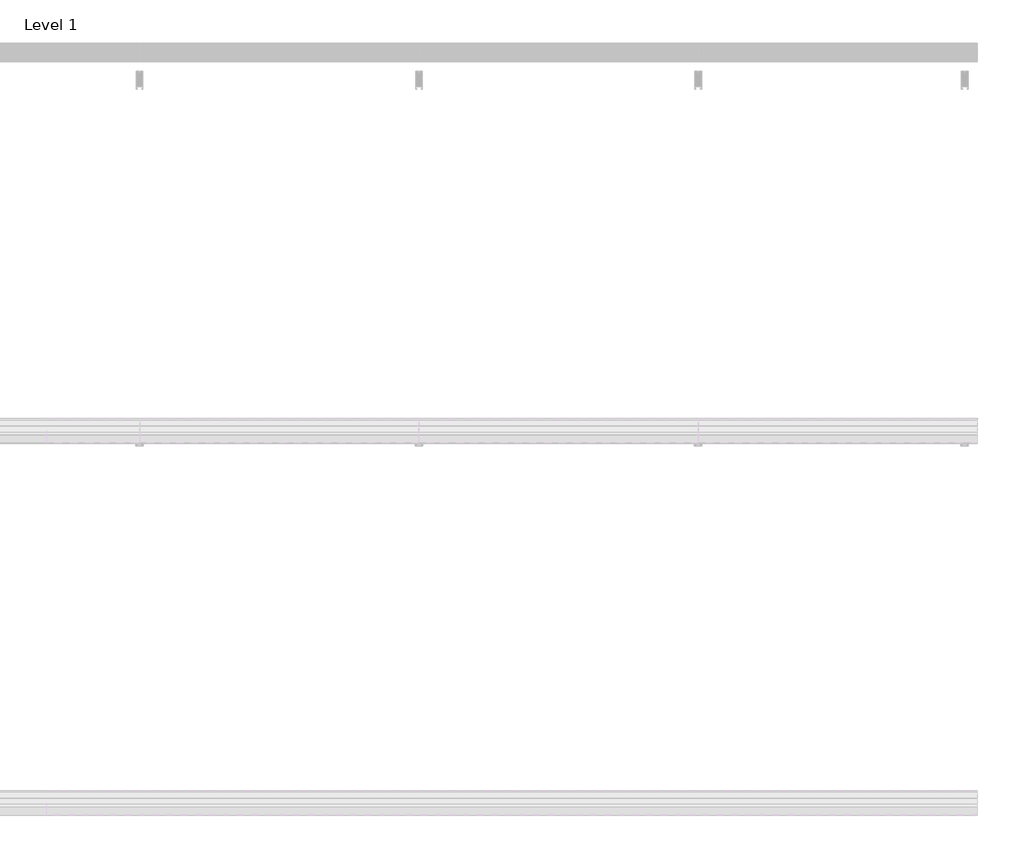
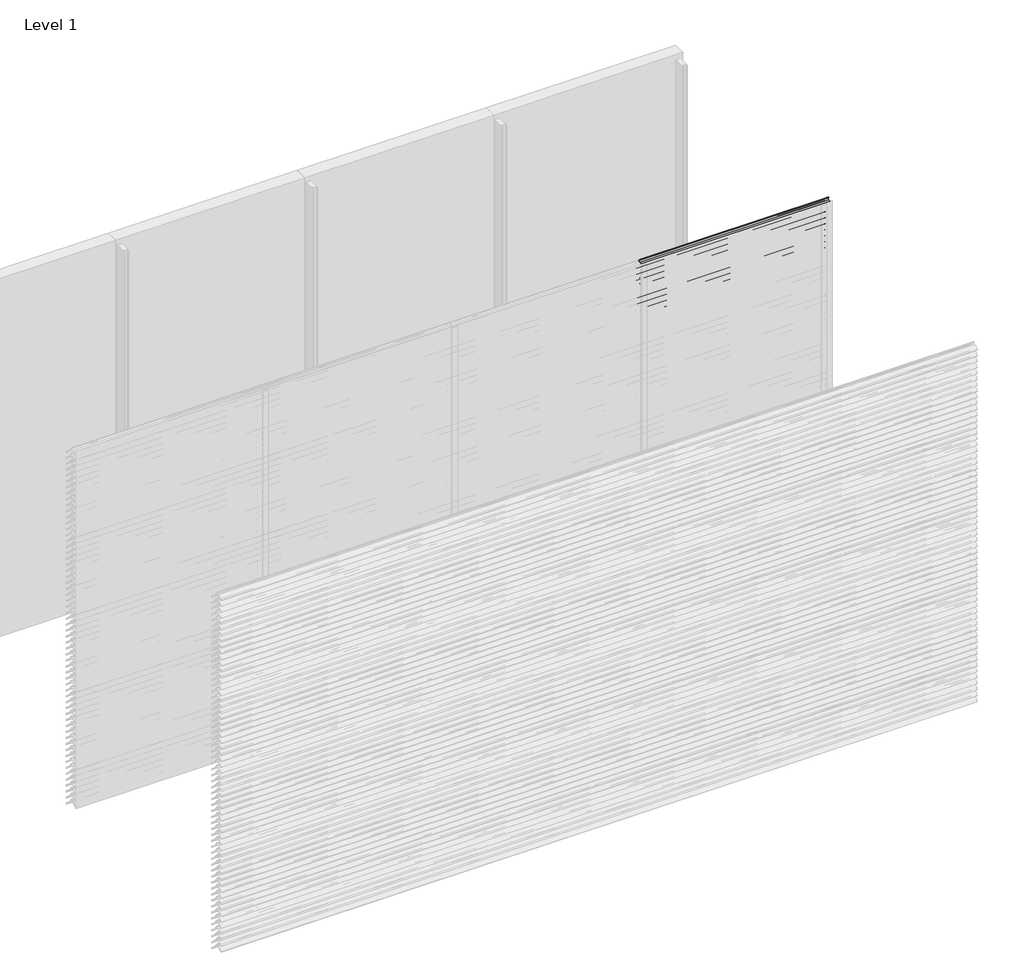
# One storey, part 102 of 173: 18 proxies.
"""IFC4 building model written with IfcOpenShell, lengths in millimetres."""

from ifc_helpers import new_model, si_unit, point, frame, frame_2d, origin, place, context, project, spatial, polyline, circle_curve, trimmed, segment, composite_curve, outline, extrude, element, save

model = new_model("IFC4")

# Units and contexts
model_context = context("Model", 3, world=origin())
ifc_project = project(units=[si_unit("LENGTHUNIT", "METRE", prefix="MILLI")], contexts=[model_context])

# Site, building, storey
site = spatial("IfcSite", under=ifc_project)
building = spatial("IfcBuilding", under=site)
storey = spatial("IfcBuildingStorey", under=building, Name="Level 1", Elevation=0.0)

# Proxies
placement = place(None, origin())
element("IfcBuildingElementProxy", 1, Name="Wall Sweeps", at=placement, inside=storey, context=model_context, shape_type="SweptSolid", body=[
    extrude(outline(composite_curve([segment(polyline([(-23998.0, 359.1474905), (-23998.0, 361.6227417)]), True, "CONTINUOUS"), segment(trimmed(circle_curve(frame_2d((-23951.2682172, 316.2200208)), 65.1557103), [point((-23998.0, 361.6227417))], [point((-23954.4014323, 381.3003524))], False, "CARTESIAN"), True, "CONTINUOUS"), segment(polyline([(-23954.4014323, 381.3003524), (-23934.8315836, 381.3003524)]), True, "CONTINUOUS"), segment(trimmed(circle_curve(frame_2d((-23732.7329489, 528.5533172)), 250.0545817), [point((-23934.8315836, 381.3003524))], [point((-23941.4452143, 390.8344583))], False, "CARTESIAN"), True, "CONTINUOUS"), segment(trimmed(circle_curve(frame_2d((-23953.2981792, 385.1737835)), 13.1352966), [point((-23941.4452143, 390.8344583))], [point((-23953.8171475, 398.298824))], True, "CARTESIAN"), True, "CONTINUOUS"), segment(polyline([(-23953.8171475, 398.298824), (-23953.8171475, 400.0)]), True, "CONTINUOUS"), segment(trimmed(circle_curve(frame_2d((-23953.2981792, 385.1737835)), 14.8352966), [point((-23953.8171475, 400.0))], [point((-23939.9637661, 391.6760487))], False, "CARTESIAN"), True, "CONTINUOUS"), segment(trimmed(circle_curve(frame_2d((-23732.7329489, 528.5533172)), 248.3545817), [point((-23939.9637661, 391.6760487))], [point((-23873.8787895, 324.2059416))], True, "CARTESIAN"), True, "CONTINUOUS"), segment(trimmed(circle_curve(frame_2d((-23883.8147537, 311.6649442)), 16.0), [point((-23873.8787895, 324.2059416))], [point((-23867.8648347, 310.4))], False, "CARTESIAN"), True, "CONTINUOUS"), segment(polyline([(-23867.8648347, 310.4), (-23869.6712069, 310.4)]), True, "CONTINUOUS"), segment(trimmed(circle_curve(frame_2d((-23883.8147537, 311.6649442)), 14.2), [point((-23869.6712069, 310.4))], [point((-23874.9518628, 322.7594998))], True, "CARTESIAN"), True, "CONTINUOUS"), segment(trimmed(circle_curve(frame_2d((-23732.7329489, 528.5533172)), 250.1545817), [point((-23874.9518628, 322.7594998))], [point((-23933.7064024, 379.6003524))], False, "CARTESIAN"), True, "CONTINUOUS"), segment(polyline([(-23933.7064024, 379.6003524), (-23954.3602632, 379.6003524)]), True, "CONTINUOUS"), segment(trimmed(circle_curve(frame_2d((-23951.2682172, 316.2200208)), 63.4557103), [point((-23954.3602632, 379.6003524))], [point((-23998.0, 359.1474905))], True, "CARTESIAN"), True, "CONTINUOUS")], self_intersect=False)), frame((3000.0, 0.0, 0.0), z_axis=(1.0, 0.0, 0.0), x_axis=(0.0, 1.0, 0.0)), (0.0, 0.0, 1.0), 1500.0),
])
element("IfcBuildingElementProxy", 2, Name="Wall Sweeps", at=placement, inside=storey, context=model_context, shape_type="SweptSolid", body=[
    extrude(outline(composite_curve([segment(polyline([(-23998.0, 309.1474905), (-23998.0, 311.6227417)]), True, "CONTINUOUS"), segment(trimmed(circle_curve(frame_2d((-23951.2682172, 266.2200208)), 65.1557103), [point((-23998.0, 311.6227417))], [point((-23954.4014323, 331.3003524))], False, "CARTESIAN"), True, "CONTINUOUS"), segment(polyline([(-23954.4014323, 331.3003524), (-23934.8315836, 331.3003524)]), True, "CONTINUOUS"), segment(trimmed(circle_curve(frame_2d((-23732.7329489, 478.5533172)), 250.0545817), [point((-23934.8315836, 331.3003524))], [point((-23941.4452143, 340.8344583))], False, "CARTESIAN"), True, "CONTINUOUS"), segment(trimmed(circle_curve(frame_2d((-23953.2981792, 335.1737835)), 13.1352966), [point((-23941.4452143, 340.8344583))], [point((-23953.8171475, 348.298824))], True, "CARTESIAN"), True, "CONTINUOUS"), segment(polyline([(-23953.8171475, 348.298824), (-23953.8171475, 350.0)]), True, "CONTINUOUS"), segment(trimmed(circle_curve(frame_2d((-23953.2981792, 335.1737835)), 14.8352966), [point((-23953.8171475, 350.0))], [point((-23939.9637661, 341.6760487))], False, "CARTESIAN"), True, "CONTINUOUS"), segment(trimmed(circle_curve(frame_2d((-23732.7329489, 478.5533172)), 248.3545817), [point((-23939.9637661, 341.6760487))], [point((-23873.8787895, 274.2059416))], True, "CARTESIAN"), True, "CONTINUOUS"), segment(trimmed(circle_curve(frame_2d((-23883.8147537, 261.6649442)), 16.0), [point((-23873.8787895, 274.2059416))], [point((-23867.8648347, 260.4))], False, "CARTESIAN"), True, "CONTINUOUS"), segment(polyline([(-23867.8648347, 260.4), (-23869.6712069, 260.4)]), True, "CONTINUOUS"), segment(trimmed(circle_curve(frame_2d((-23883.8147537, 261.6649442)), 14.2), [point((-23869.6712069, 260.4))], [point((-23874.9518628, 272.7594998))], True, "CARTESIAN"), True, "CONTINUOUS"), segment(trimmed(circle_curve(frame_2d((-23732.7329489, 478.5533172)), 250.1545817), [point((-23874.9518628, 272.7594998))], [point((-23933.7064024, 329.6003524))], False, "CARTESIAN"), True, "CONTINUOUS"), segment(polyline([(-23933.7064024, 329.6003524), (-23954.3602632, 329.6003524)]), True, "CONTINUOUS"), segment(trimmed(circle_curve(frame_2d((-23951.2682172, 266.2200208)), 63.4557103), [point((-23954.3602632, 329.6003524))], [point((-23998.0, 309.1474905))], True, "CARTESIAN"), True, "CONTINUOUS")], self_intersect=False)), frame((3000.0, 0.0, 0.0), z_axis=(1.0, 0.0, 0.0), x_axis=(0.0, 1.0, 0.0)), (0.0, 0.0, 1.0), 1500.0),
])
element("IfcBuildingElementProxy", 3, Name="Wall Sweeps", at=placement, inside=storey, context=model_context, shape_type="SweptSolid", body=[
    extrude(outline(composite_curve([segment(polyline([(-23998.0, 259.1474905), (-23998.0, 261.6227417)]), True, "CONTINUOUS"), segment(trimmed(circle_curve(frame_2d((-23951.2682172, 216.2200208)), 65.1557103), [point((-23998.0, 261.6227417))], [point((-23954.4014323, 281.3003524))], False, "CARTESIAN"), True, "CONTINUOUS"), segment(polyline([(-23954.4014323, 281.3003524), (-23934.8315836, 281.3003524)]), True, "CONTINUOUS"), segment(trimmed(circle_curve(frame_2d((-23732.7329489, 428.5533172)), 250.0545817), [point((-23934.8315836, 281.3003524))], [point((-23941.4452143, 290.8344583))], False, "CARTESIAN"), True, "CONTINUOUS"), segment(trimmed(circle_curve(frame_2d((-23953.2981792, 285.1737835)), 13.1352966), [point((-23941.4452143, 290.8344583))], [point((-23953.8171475, 298.298824))], True, "CARTESIAN"), True, "CONTINUOUS"), segment(polyline([(-23953.8171475, 298.298824), (-23953.8171475, 300.0)]), True, "CONTINUOUS"), segment(trimmed(circle_curve(frame_2d((-23953.2981792, 285.1737835)), 14.8352966), [point((-23953.8171475, 300.0))], [point((-23939.9637661, 291.6760487))], False, "CARTESIAN"), True, "CONTINUOUS"), segment(trimmed(circle_curve(frame_2d((-23732.7329489, 428.5533172)), 248.3545817), [point((-23939.9637661, 291.6760487))], [point((-23873.8787895, 224.2059416))], True, "CARTESIAN"), True, "CONTINUOUS"), segment(trimmed(circle_curve(frame_2d((-23883.8147537, 211.6649442)), 16.0), [point((-23873.8787895, 224.2059416))], [point((-23867.8648347, 210.4))], False, "CARTESIAN"), True, "CONTINUOUS"), segment(polyline([(-23867.8648347, 210.4), (-23869.6712069, 210.4)]), True, "CONTINUOUS"), segment(trimmed(circle_curve(frame_2d((-23883.8147537, 211.6649442)), 14.2), [point((-23869.6712069, 210.4))], [point((-23874.9518628, 222.7594998))], True, "CARTESIAN"), True, "CONTINUOUS"), segment(trimmed(circle_curve(frame_2d((-23732.7329489, 428.5533172)), 250.1545817), [point((-23874.9518628, 222.7594998))], [point((-23933.7064024, 279.6003524))], False, "CARTESIAN"), True, "CONTINUOUS"), segment(polyline([(-23933.7064024, 279.6003524), (-23954.3602632, 279.6003524)]), True, "CONTINUOUS"), segment(trimmed(circle_curve(frame_2d((-23951.2682172, 216.2200208)), 63.4557103), [point((-23954.3602632, 279.6003524))], [point((-23998.0, 259.1474905))], True, "CARTESIAN"), True, "CONTINUOUS")], self_intersect=False)), frame((3000.0, 0.0, 0.0), z_axis=(1.0, 0.0, 0.0), x_axis=(0.0, 1.0, 0.0)), (0.0, 0.0, 1.0), 1500.0),
])
element("IfcBuildingElementProxy", 4, Name="Wall Sweeps", at=placement, inside=storey, context=model_context, shape_type="SweptSolid", body=[
    extrude(outline(composite_curve([segment(polyline([(-23998.0, 209.1474905), (-23998.0, 211.6227417)]), True, "CONTINUOUS"), segment(trimmed(circle_curve(frame_2d((-23951.2682172, 166.2200208)), 65.1557103), [point((-23998.0, 211.6227417))], [point((-23954.4014323, 231.3003524))], False, "CARTESIAN"), True, "CONTINUOUS"), segment(polyline([(-23954.4014323, 231.3003524), (-23934.8315836, 231.3003524)]), True, "CONTINUOUS"), segment(trimmed(circle_curve(frame_2d((-23732.7329489, 378.5533172)), 250.0545817), [point((-23934.8315836, 231.3003524))], [point((-23941.4452143, 240.8344583))], False, "CARTESIAN"), True, "CONTINUOUS"), segment(trimmed(circle_curve(frame_2d((-23953.2981792, 235.1737835)), 13.1352966), [point((-23941.4452143, 240.8344583))], [point((-23953.8171475, 248.298824))], True, "CARTESIAN"), True, "CONTINUOUS"), segment(polyline([(-23953.8171475, 248.298824), (-23953.8171475, 250.0)]), True, "CONTINUOUS"), segment(trimmed(circle_curve(frame_2d((-23953.2981792, 235.1737835)), 14.8352966), [point((-23953.8171475, 250.0))], [point((-23939.9637661, 241.6760487))], False, "CARTESIAN"), True, "CONTINUOUS"), segment(trimmed(circle_curve(frame_2d((-23732.7329489, 378.5533172)), 248.3545817), [point((-23939.9637661, 241.6760487))], [point((-23873.8787895, 174.2059416))], True, "CARTESIAN"), True, "CONTINUOUS"), segment(trimmed(circle_curve(frame_2d((-23883.8147537, 161.6649442)), 16.0), [point((-23873.8787895, 174.2059416))], [point((-23867.8648347, 160.4))], False, "CARTESIAN"), True, "CONTINUOUS"), segment(polyline([(-23867.8648347, 160.4), (-23869.6712069, 160.4)]), True, "CONTINUOUS"), segment(trimmed(circle_curve(frame_2d((-23883.8147537, 161.6649442)), 14.2), [point((-23869.6712069, 160.4))], [point((-23874.9518628, 172.7594998))], True, "CARTESIAN"), True, "CONTINUOUS"), segment(trimmed(circle_curve(frame_2d((-23732.7329489, 378.5533172)), 250.1545817), [point((-23874.9518628, 172.7594998))], [point((-23933.7064024, 229.6003524))], False, "CARTESIAN"), True, "CONTINUOUS"), segment(polyline([(-23933.7064024, 229.6003524), (-23954.3602632, 229.6003524)]), True, "CONTINUOUS"), segment(trimmed(circle_curve(frame_2d((-23951.2682172, 166.2200208)), 63.4557103), [point((-23954.3602632, 229.6003524))], [point((-23998.0, 209.1474905))], True, "CARTESIAN"), True, "CONTINUOUS")], self_intersect=False)), frame((3000.0, 0.0, 0.0), z_axis=(1.0, 0.0, 0.0), x_axis=(0.0, 1.0, 0.0)), (0.0, 0.0, 1.0), 1500.0),
])
element("IfcBuildingElementProxy", 5, Name="Wall Sweeps", at=placement, inside=storey, context=model_context, shape_type="SweptSolid", body=[
    extrude(outline(composite_curve([segment(polyline([(-23998.0, 159.1474905), (-23998.0, 161.6227417)]), True, "CONTINUOUS"), segment(trimmed(circle_curve(frame_2d((-23951.2682172, 116.2200208)), 65.1557103), [point((-23998.0, 161.6227417))], [point((-23954.4014323, 181.3003524))], False, "CARTESIAN"), True, "CONTINUOUS"), segment(polyline([(-23954.4014323, 181.3003524), (-23934.8315836, 181.3003524)]), True, "CONTINUOUS"), segment(trimmed(circle_curve(frame_2d((-23732.7329489, 328.5533172)), 250.0545817), [point((-23934.8315836, 181.3003524))], [point((-23941.4452143, 190.8344583))], False, "CARTESIAN"), True, "CONTINUOUS"), segment(trimmed(circle_curve(frame_2d((-23953.2981792, 185.1737835)), 13.1352966), [point((-23941.4452143, 190.8344583))], [point((-23953.8171475, 198.298824))], True, "CARTESIAN"), True, "CONTINUOUS"), segment(polyline([(-23953.8171475, 198.298824), (-23953.8171475, 200.0)]), True, "CONTINUOUS"), segment(trimmed(circle_curve(frame_2d((-23953.2981792, 185.1737835)), 14.8352966), [point((-23953.8171475, 200.0))], [point((-23939.9637661, 191.6760487))], False, "CARTESIAN"), True, "CONTINUOUS"), segment(trimmed(circle_curve(frame_2d((-23732.7329489, 328.5533172)), 248.3545817), [point((-23939.9637661, 191.6760487))], [point((-23873.8787895, 124.2059416))], True, "CARTESIAN"), True, "CONTINUOUS"), segment(trimmed(circle_curve(frame_2d((-23883.8147537, 111.6649442)), 16.0), [point((-23873.8787895, 124.2059416))], [point((-23867.8648347, 110.4))], False, "CARTESIAN"), True, "CONTINUOUS"), segment(polyline([(-23867.8648347, 110.4), (-23869.6712069, 110.4)]), True, "CONTINUOUS"), segment(trimmed(circle_curve(frame_2d((-23883.8147537, 111.6649442)), 14.2), [point((-23869.6712069, 110.4))], [point((-23874.9518628, 122.7594998))], True, "CARTESIAN"), True, "CONTINUOUS"), segment(trimmed(circle_curve(frame_2d((-23732.7329489, 328.5533172)), 250.1545817), [point((-23874.9518628, 122.7594998))], [point((-23933.7064024, 179.6003524))], False, "CARTESIAN"), True, "CONTINUOUS"), segment(polyline([(-23933.7064024, 179.6003524), (-23954.3602632, 179.6003524)]), True, "CONTINUOUS"), segment(trimmed(circle_curve(frame_2d((-23951.2682172, 116.2200208)), 63.4557103), [point((-23954.3602632, 179.6003524))], [point((-23998.0, 159.1474905))], True, "CARTESIAN"), True, "CONTINUOUS")], self_intersect=False)), frame((3000.0, 0.0, 0.0), z_axis=(1.0, 0.0, 0.0), x_axis=(0.0, 1.0, 0.0)), (0.0, 0.0, 1.0), 1500.0),
])
element("IfcBuildingElementProxy", 6, Name="Wall Sweeps", at=placement, inside=storey, context=model_context, shape_type="SweptSolid", body=[
    extrude(outline(composite_curve([segment(polyline([(-23998.0, 109.1474905), (-23998.0, 111.6227417)]), True, "CONTINUOUS"), segment(trimmed(circle_curve(frame_2d((-23951.2682172, 66.2200208)), 65.1557103), [point((-23998.0, 111.6227417))], [point((-23954.4014323, 131.3003524))], False, "CARTESIAN"), True, "CONTINUOUS"), segment(polyline([(-23954.4014323, 131.3003524), (-23934.8315836, 131.3003524)]), True, "CONTINUOUS"), segment(trimmed(circle_curve(frame_2d((-23732.7329489, 278.5533172)), 250.0545817), [point((-23934.8315836, 131.3003524))], [point((-23941.4452143, 140.8344583))], False, "CARTESIAN"), True, "CONTINUOUS"), segment(trimmed(circle_curve(frame_2d((-23953.2981792, 135.1737835)), 13.1352966), [point((-23941.4452143, 140.8344583))], [point((-23953.8171475, 148.298824))], True, "CARTESIAN"), True, "CONTINUOUS"), segment(polyline([(-23953.8171475, 148.298824), (-23953.8171475, 150.0)]), True, "CONTINUOUS"), segment(trimmed(circle_curve(frame_2d((-23953.2981792, 135.1737835)), 14.8352966), [point((-23953.8171475, 150.0))], [point((-23939.9637661, 141.6760487))], False, "CARTESIAN"), True, "CONTINUOUS"), segment(trimmed(circle_curve(frame_2d((-23732.7329489, 278.5533172)), 248.3545817), [point((-23939.9637661, 141.6760487))], [point((-23873.8787895, 74.2059416))], True, "CARTESIAN"), True, "CONTINUOUS"), segment(trimmed(circle_curve(frame_2d((-23883.8147537, 61.6649442)), 16.0), [point((-23873.8787895, 74.2059416))], [point((-23867.8648347, 60.4))], False, "CARTESIAN"), True, "CONTINUOUS"), segment(polyline([(-23867.8648347, 60.4), (-23869.6712069, 60.4)]), True, "CONTINUOUS"), segment(trimmed(circle_curve(frame_2d((-23883.8147537, 61.6649442)), 14.2), [point((-23869.6712069, 60.4))], [point((-23874.9518628, 72.7594998))], True, "CARTESIAN"), True, "CONTINUOUS"), segment(trimmed(circle_curve(frame_2d((-23732.7329489, 278.5533172)), 250.1545817), [point((-23874.9518628, 72.7594998))], [point((-23933.7064024, 129.6003524))], False, "CARTESIAN"), True, "CONTINUOUS"), segment(polyline([(-23933.7064024, 129.6003524), (-23954.3602632, 129.6003524)]), True, "CONTINUOUS"), segment(trimmed(circle_curve(frame_2d((-23951.2682172, 66.2200208)), 63.4557103), [point((-23954.3602632, 129.6003524))], [point((-23998.0, 109.1474905))], True, "CARTESIAN"), True, "CONTINUOUS")], self_intersect=False)), frame((3000.0, 0.0, 0.0), z_axis=(1.0, 0.0, 0.0), x_axis=(0.0, 1.0, 0.0)), (0.0, 0.0, 1.0), 1500.0),
])
element("IfcBuildingElementProxy", 7, Name="Wall Sweeps", at=placement, inside=storey, context=model_context, shape_type="SweptSolid", body=[
    extrude(outline(composite_curve([segment(polyline([(-23998.0, 59.1474905), (-23998.0, 61.6227417)]), True, "CONTINUOUS"), segment(trimmed(circle_curve(frame_2d((-23951.2682172, 16.2200208)), 65.1557103), [point((-23998.0, 61.6227417))], [point((-23954.4014323, 81.3003524))], False, "CARTESIAN"), True, "CONTINUOUS"), segment(polyline([(-23954.4014323, 81.3003524), (-23934.8315836, 81.3003524)]), True, "CONTINUOUS"), segment(trimmed(circle_curve(frame_2d((-23732.7329489, 228.5533172)), 250.0545817), [point((-23934.8315836, 81.3003524))], [point((-23941.4452143, 90.8344583))], False, "CARTESIAN"), True, "CONTINUOUS"), segment(trimmed(circle_curve(frame_2d((-23953.2981792, 85.1737835)), 13.1352966), [point((-23941.4452143, 90.8344583))], [point((-23953.8171475, 98.298824))], True, "CARTESIAN"), True, "CONTINUOUS"), segment(polyline([(-23953.8171475, 98.298824), (-23953.8171475, 100.0)]), True, "CONTINUOUS"), segment(trimmed(circle_curve(frame_2d((-23953.2981792, 85.1737835)), 14.8352966), [point((-23953.8171475, 100.0))], [point((-23939.9637661, 91.6760487))], False, "CARTESIAN"), True, "CONTINUOUS"), segment(trimmed(circle_curve(frame_2d((-23732.7329489, 228.5533172)), 248.3545817), [point((-23939.9637661, 91.6760487))], [point((-23873.8787895, 24.2059416))], True, "CARTESIAN"), True, "CONTINUOUS"), segment(trimmed(circle_curve(frame_2d((-23883.8147537, 11.6649442)), 16.0), [point((-23873.8787895, 24.2059416))], [point((-23867.8648347, 10.4))], False, "CARTESIAN"), True, "CONTINUOUS"), segment(polyline([(-23867.8648347, 10.4), (-23869.6712069, 10.4)]), True, "CONTINUOUS"), segment(trimmed(circle_curve(frame_2d((-23883.8147537, 11.6649442)), 14.2), [point((-23869.6712069, 10.4))], [point((-23874.9518628, 22.7594998))], True, "CARTESIAN"), True, "CONTINUOUS"), segment(trimmed(circle_curve(frame_2d((-23732.7329489, 228.5533172)), 250.1545817), [point((-23874.9518628, 22.7594998))], [point((-23933.7064024, 79.6003524))], False, "CARTESIAN"), True, "CONTINUOUS"), segment(polyline([(-23933.7064024, 79.6003524), (-23954.3602632, 79.6003524)]), True, "CONTINUOUS"), segment(trimmed(circle_curve(frame_2d((-23951.2682172, 16.2200208)), 63.4557103), [point((-23954.3602632, 79.6003524))], [point((-23998.0, 59.1474905))], True, "CARTESIAN"), True, "CONTINUOUS")], self_intersect=False)), frame((3000.0, 0.0, 0.0), z_axis=(1.0, 0.0, 0.0), x_axis=(0.0, 1.0, 0.0)), (0.0, 0.0, 1.0), 1500.0),
])
element("IfcBuildingElementProxy", 8, Name="Wall Sweeps", at=placement, inside=storey, context=model_context, shape_type="SweptSolid", body=[
    extrude(outline(composite_curve([segment(polyline([(-23998.0, 9.1474905), (-23998.0, 11.6227417)]), True, "CONTINUOUS"), segment(trimmed(circle_curve(frame_2d((-23951.2682172, -33.7799792)), 65.1557103), [point((-23998.0, 11.6227417))], [point((-23954.4014323, 31.3003524))], False, "CARTESIAN"), True, "CONTINUOUS"), segment(polyline([(-23954.4014323, 31.3003524), (-23934.8315836, 31.3003524)]), True, "CONTINUOUS"), segment(trimmed(circle_curve(frame_2d((-23732.7329489, 178.5533172)), 250.0545817), [point((-23934.8315836, 31.3003524))], [point((-23941.4452143, 40.8344583))], False, "CARTESIAN"), True, "CONTINUOUS"), segment(trimmed(circle_curve(frame_2d((-23953.2981792, 35.1737835)), 13.1352966), [point((-23941.4452143, 40.8344583))], [point((-23953.8171475, 48.298824))], True, "CARTESIAN"), True, "CONTINUOUS"), segment(polyline([(-23953.8171475, 48.298824), (-23953.8171475, 50.0)]), True, "CONTINUOUS"), segment(trimmed(circle_curve(frame_2d((-23953.2981792, 35.1737835)), 14.8352966), [point((-23953.8171475, 50.0))], [point((-23939.9637661, 41.6760487))], False, "CARTESIAN"), True, "CONTINUOUS"), segment(trimmed(circle_curve(frame_2d((-23732.7329489, 178.5533172)), 248.3545817), [point((-23939.9637661, 41.6760487))], [point((-23873.8787895, -25.7940584))], True, "CARTESIAN"), True, "CONTINUOUS"), segment(trimmed(circle_curve(frame_2d((-23883.8147537, -38.3350558)), 16.0), [point((-23873.8787895, -25.7940584))], [point((-23867.8648347, -39.6))], False, "CARTESIAN"), True, "CONTINUOUS"), segment(polyline([(-23867.8648347, -39.6), (-23869.6712069, -39.6)]), True, "CONTINUOUS"), segment(trimmed(circle_curve(frame_2d((-23883.8147537, -38.3350558)), 14.2), [point((-23869.6712069, -39.6))], [point((-23874.9518628, -27.2405002))], True, "CARTESIAN"), True, "CONTINUOUS"), segment(trimmed(circle_curve(frame_2d((-23732.7329489, 178.5533172)), 250.1545817), [point((-23874.9518628, -27.2405002))], [point((-23933.7064024, 29.6003524))], False, "CARTESIAN"), True, "CONTINUOUS"), segment(polyline([(-23933.7064024, 29.6003524), (-23954.3602632, 29.6003524)]), True, "CONTINUOUS"), segment(trimmed(circle_curve(frame_2d((-23951.2682172, -33.7799792)), 63.4557103), [point((-23954.3602632, 29.6003524))], [point((-23998.0, 9.1474905))], True, "CARTESIAN"), True, "CONTINUOUS")], self_intersect=False)), frame((3000.0, 0.0, 0.0), z_axis=(1.0, 0.0, 0.0), x_axis=(0.0, 1.0, 0.0)), (0.0, 0.0, 1.0), 1500.0),
])
element("IfcBuildingElementProxy", 9, Name="Wall Sweeps", at=placement, inside=storey, context=model_context, shape_type="SweptSolid", body=[
    extrude(outline(composite_curve([segment(polyline([(-23998.0, 2959.1474905), (-23998.0, 2961.6227417)]), True, "CONTINUOUS"), segment(trimmed(circle_curve(frame_2d((-23951.2682172, 2916.2200208)), 65.1557103), [point((-23998.0, 2961.6227417))], [point((-23954.4014323, 2981.3003524))], False, "CARTESIAN"), True, "CONTINUOUS"), segment(polyline([(-23954.4014323, 2981.3003524), (-23934.8315836, 2981.3003524)]), True, "CONTINUOUS"), segment(trimmed(circle_curve(frame_2d((-23732.7329489, 3128.5533172)), 250.0545817), [point((-23934.8315836, 2981.3003524))], [point((-23941.4452143, 2990.8344583))], False, "CARTESIAN"), True, "CONTINUOUS"), segment(trimmed(circle_curve(frame_2d((-23953.2981792, 2985.1737835)), 13.1352966), [point((-23941.4452143, 2990.8344583))], [point((-23953.8171475, 2998.298824))], True, "CARTESIAN"), True, "CONTINUOUS"), segment(polyline([(-23953.8171475, 2998.298824), (-23953.8171475, 3000.0)]), True, "CONTINUOUS"), segment(trimmed(circle_curve(frame_2d((-23953.2981792, 2985.1737835)), 14.8352966), [point((-23953.8171475, 3000.0))], [point((-23939.9637661, 2991.6760487))], False, "CARTESIAN"), True, "CONTINUOUS"), segment(trimmed(circle_curve(frame_2d((-23732.7329489, 3128.5533172)), 248.3545817), [point((-23939.9637661, 2991.6760487))], [point((-23873.8787895, 2924.2059416))], True, "CARTESIAN"), True, "CONTINUOUS"), segment(trimmed(circle_curve(frame_2d((-23883.8147537, 2911.6649442)), 16.0), [point((-23873.8787895, 2924.2059416))], [point((-23867.8648347, 2910.4))], False, "CARTESIAN"), True, "CONTINUOUS"), segment(polyline([(-23867.8648347, 2910.4), (-23869.6712069, 2910.4)]), True, "CONTINUOUS"), segment(trimmed(circle_curve(frame_2d((-23883.8147537, 2911.6649442)), 14.2), [point((-23869.6712069, 2910.4))], [point((-23874.9518628, 2922.7594998))], True, "CARTESIAN"), True, "CONTINUOUS"), segment(trimmed(circle_curve(frame_2d((-23732.7329489, 3128.5533172)), 250.1545817), [point((-23874.9518628, 2922.7594998))], [point((-23933.7064024, 2979.6003524))], False, "CARTESIAN"), True, "CONTINUOUS"), segment(polyline([(-23933.7064024, 2979.6003524), (-23954.3602632, 2979.6003524)]), True, "CONTINUOUS"), segment(trimmed(circle_curve(frame_2d((-23951.2682172, 2916.2200208)), 63.4557103), [point((-23954.3602632, 2979.6003524))], [point((-23998.0, 2959.1474905))], True, "CARTESIAN"), True, "CONTINUOUS")], self_intersect=False)), frame((4500.0, 0.0, 0.0), z_axis=(1.0, 0.0, 0.0), x_axis=(0.0, 1.0, 0.0)), (0.0, 0.0, 1.0), 1500.0),
])
element("IfcBuildingElementProxy", 10, Name="Wall Sweeps", at=placement, inside=storey, context=model_context, shape_type="SweptSolid", body=[
    extrude(outline(composite_curve([segment(polyline([(-23998.0, 2909.1474905), (-23998.0, 2911.6227417)]), True, "CONTINUOUS"), segment(trimmed(circle_curve(frame_2d((-23951.2682172, 2866.2200208)), 65.1557103), [point((-23998.0, 2911.6227417))], [point((-23954.4014323, 2931.3003524))], False, "CARTESIAN"), True, "CONTINUOUS"), segment(polyline([(-23954.4014323, 2931.3003524), (-23934.8315836, 2931.3003524)]), True, "CONTINUOUS"), segment(trimmed(circle_curve(frame_2d((-23732.7329489, 3078.5533172)), 250.0545817), [point((-23934.8315836, 2931.3003524))], [point((-23941.4452143, 2940.8344583))], False, "CARTESIAN"), True, "CONTINUOUS"), segment(trimmed(circle_curve(frame_2d((-23953.2981792, 2935.1737835)), 13.1352966), [point((-23941.4452143, 2940.8344583))], [point((-23953.8171475, 2948.298824))], True, "CARTESIAN"), True, "CONTINUOUS"), segment(polyline([(-23953.8171475, 2948.298824), (-23953.8171475, 2950.0)]), True, "CONTINUOUS"), segment(trimmed(circle_curve(frame_2d((-23953.2981792, 2935.1737835)), 14.8352966), [point((-23953.8171475, 2950.0))], [point((-23939.9637661, 2941.6760487))], False, "CARTESIAN"), True, "CONTINUOUS"), segment(trimmed(circle_curve(frame_2d((-23732.7329489, 3078.5533172)), 248.3545817), [point((-23939.9637661, 2941.6760487))], [point((-23873.8787895, 2874.2059416))], True, "CARTESIAN"), True, "CONTINUOUS"), segment(trimmed(circle_curve(frame_2d((-23883.8147537, 2861.6649442)), 16.0), [point((-23873.8787895, 2874.2059416))], [point((-23867.8648347, 2860.4))], False, "CARTESIAN"), True, "CONTINUOUS"), segment(polyline([(-23867.8648347, 2860.4), (-23869.6712069, 2860.4)]), True, "CONTINUOUS"), segment(trimmed(circle_curve(frame_2d((-23883.8147537, 2861.6649442)), 14.2), [point((-23869.6712069, 2860.4))], [point((-23874.9518628, 2872.7594998))], True, "CARTESIAN"), True, "CONTINUOUS"), segment(trimmed(circle_curve(frame_2d((-23732.7329489, 3078.5533172)), 250.1545817), [point((-23874.9518628, 2872.7594998))], [point((-23933.7064024, 2929.6003524))], False, "CARTESIAN"), True, "CONTINUOUS"), segment(polyline([(-23933.7064024, 2929.6003524), (-23954.3602632, 2929.6003524)]), True, "CONTINUOUS"), segment(trimmed(circle_curve(frame_2d((-23951.2682172, 2866.2200208)), 63.4557103), [point((-23954.3602632, 2929.6003524))], [point((-23998.0, 2909.1474905))], True, "CARTESIAN"), True, "CONTINUOUS")], self_intersect=False)), frame((4500.0, 0.0, 0.0), z_axis=(1.0, 0.0, 0.0), x_axis=(0.0, 1.0, 0.0)), (0.0, 0.0, 1.0), 1500.0),
])
element("IfcBuildingElementProxy", 11, Name="Wall Sweeps", at=placement, inside=storey, context=model_context, shape_type="SweptSolid", body=[
    extrude(outline(composite_curve([segment(polyline([(-23998.0, 2859.1474905), (-23998.0, 2861.6227417)]), True, "CONTINUOUS"), segment(trimmed(circle_curve(frame_2d((-23951.2682172, 2816.2200208)), 65.1557103), [point((-23998.0, 2861.6227417))], [point((-23954.4014323, 2881.3003524))], False, "CARTESIAN"), True, "CONTINUOUS"), segment(polyline([(-23954.4014323, 2881.3003524), (-23934.8315836, 2881.3003524)]), True, "CONTINUOUS"), segment(trimmed(circle_curve(frame_2d((-23732.7329489, 3028.5533172)), 250.0545817), [point((-23934.8315836, 2881.3003524))], [point((-23941.4452143, 2890.8344583))], False, "CARTESIAN"), True, "CONTINUOUS"), segment(trimmed(circle_curve(frame_2d((-23953.2981792, 2885.1737835)), 13.1352966), [point((-23941.4452143, 2890.8344583))], [point((-23953.8171475, 2898.298824))], True, "CARTESIAN"), True, "CONTINUOUS"), segment(polyline([(-23953.8171475, 2898.298824), (-23953.8171475, 2900.0)]), True, "CONTINUOUS"), segment(trimmed(circle_curve(frame_2d((-23953.2981792, 2885.1737835)), 14.8352966), [point((-23953.8171475, 2900.0))], [point((-23939.9637661, 2891.6760487))], False, "CARTESIAN"), True, "CONTINUOUS"), segment(trimmed(circle_curve(frame_2d((-23732.7329489, 3028.5533172)), 248.3545817), [point((-23939.9637661, 2891.6760487))], [point((-23873.8787895, 2824.2059416))], True, "CARTESIAN"), True, "CONTINUOUS"), segment(trimmed(circle_curve(frame_2d((-23883.8147537, 2811.6649442)), 16.0), [point((-23873.8787895, 2824.2059416))], [point((-23867.8648347, 2810.4))], False, "CARTESIAN"), True, "CONTINUOUS"), segment(polyline([(-23867.8648347, 2810.4), (-23869.6712069, 2810.4)]), True, "CONTINUOUS"), segment(trimmed(circle_curve(frame_2d((-23883.8147537, 2811.6649442)), 14.2), [point((-23869.6712069, 2810.4))], [point((-23874.9518628, 2822.7594998))], True, "CARTESIAN"), True, "CONTINUOUS"), segment(trimmed(circle_curve(frame_2d((-23732.7329489, 3028.5533172)), 250.1545817), [point((-23874.9518628, 2822.7594998))], [point((-23933.7064024, 2879.6003524))], False, "CARTESIAN"), True, "CONTINUOUS"), segment(polyline([(-23933.7064024, 2879.6003524), (-23954.3602632, 2879.6003524)]), True, "CONTINUOUS"), segment(trimmed(circle_curve(frame_2d((-23951.2682172, 2816.2200208)), 63.4557103), [point((-23954.3602632, 2879.6003524))], [point((-23998.0, 2859.1474905))], True, "CARTESIAN"), True, "CONTINUOUS")], self_intersect=False)), frame((4500.0, 0.0, 0.0), z_axis=(1.0, 0.0, 0.0), x_axis=(0.0, 1.0, 0.0)), (0.0, 0.0, 1.0), 1500.0),
])
element("IfcBuildingElementProxy", 12, Name="Wall Sweeps", at=placement, inside=storey, context=model_context, shape_type="SweptSolid", body=[
    extrude(outline(composite_curve([segment(polyline([(-23998.0, 2809.1474905), (-23998.0, 2811.6227417)]), True, "CONTINUOUS"), segment(trimmed(circle_curve(frame_2d((-23951.2682172, 2766.2200208)), 65.1557103), [point((-23998.0, 2811.6227417))], [point((-23954.4014323, 2831.3003524))], False, "CARTESIAN"), True, "CONTINUOUS"), segment(polyline([(-23954.4014323, 2831.3003524), (-23934.8315836, 2831.3003524)]), True, "CONTINUOUS"), segment(trimmed(circle_curve(frame_2d((-23732.7329489, 2978.5533172)), 250.0545817), [point((-23934.8315836, 2831.3003524))], [point((-23941.4452143, 2840.8344583))], False, "CARTESIAN"), True, "CONTINUOUS"), segment(trimmed(circle_curve(frame_2d((-23953.2981792, 2835.1737835)), 13.1352966), [point((-23941.4452143, 2840.8344583))], [point((-23953.8171475, 2848.298824))], True, "CARTESIAN"), True, "CONTINUOUS"), segment(polyline([(-23953.8171475, 2848.298824), (-23953.8171475, 2850.0)]), True, "CONTINUOUS"), segment(trimmed(circle_curve(frame_2d((-23953.2981792, 2835.1737835)), 14.8352966), [point((-23953.8171475, 2850.0))], [point((-23939.9637661, 2841.6760487))], False, "CARTESIAN"), True, "CONTINUOUS"), segment(trimmed(circle_curve(frame_2d((-23732.7329489, 2978.5533172)), 248.3545817), [point((-23939.9637661, 2841.6760487))], [point((-23873.8787895, 2774.2059416))], True, "CARTESIAN"), True, "CONTINUOUS"), segment(trimmed(circle_curve(frame_2d((-23883.8147537, 2761.6649442)), 16.0), [point((-23873.8787895, 2774.2059416))], [point((-23867.8648347, 2760.4))], False, "CARTESIAN"), True, "CONTINUOUS"), segment(polyline([(-23867.8648347, 2760.4), (-23869.6712069, 2760.4)]), True, "CONTINUOUS"), segment(trimmed(circle_curve(frame_2d((-23883.8147537, 2761.6649442)), 14.2), [point((-23869.6712069, 2760.4))], [point((-23874.9518628, 2772.7594998))], True, "CARTESIAN"), True, "CONTINUOUS"), segment(trimmed(circle_curve(frame_2d((-23732.7329489, 2978.5533172)), 250.1545817), [point((-23874.9518628, 2772.7594998))], [point((-23933.7064024, 2829.6003524))], False, "CARTESIAN"), True, "CONTINUOUS"), segment(polyline([(-23933.7064024, 2829.6003524), (-23954.3602632, 2829.6003524)]), True, "CONTINUOUS"), segment(trimmed(circle_curve(frame_2d((-23951.2682172, 2766.2200208)), 63.4557103), [point((-23954.3602632, 2829.6003524))], [point((-23998.0, 2809.1474905))], True, "CARTESIAN"), True, "CONTINUOUS")], self_intersect=False)), frame((4500.0, 0.0, 0.0), z_axis=(1.0, 0.0, 0.0), x_axis=(0.0, 1.0, 0.0)), (0.0, 0.0, 1.0), 1500.0),
])
element("IfcBuildingElementProxy", 13, Name="Wall Sweeps", at=placement, inside=storey, context=model_context, shape_type="SweptSolid", body=[
    extrude(outline(composite_curve([segment(polyline([(-23998.0, 2759.1474905), (-23998.0, 2761.6227417)]), True, "CONTINUOUS"), segment(trimmed(circle_curve(frame_2d((-23951.2682172, 2716.2200208)), 65.1557103), [point((-23998.0, 2761.6227417))], [point((-23954.4014323, 2781.3003524))], False, "CARTESIAN"), True, "CONTINUOUS"), segment(polyline([(-23954.4014323, 2781.3003524), (-23934.8315836, 2781.3003524)]), True, "CONTINUOUS"), segment(trimmed(circle_curve(frame_2d((-23732.7329489, 2928.5533172)), 250.0545817), [point((-23934.8315836, 2781.3003524))], [point((-23941.4452143, 2790.8344583))], False, "CARTESIAN"), True, "CONTINUOUS"), segment(trimmed(circle_curve(frame_2d((-23953.2981792, 2785.1737835)), 13.1352966), [point((-23941.4452143, 2790.8344583))], [point((-23953.8171475, 2798.298824))], True, "CARTESIAN"), True, "CONTINUOUS"), segment(polyline([(-23953.8171475, 2798.298824), (-23953.8171475, 2800.0)]), True, "CONTINUOUS"), segment(trimmed(circle_curve(frame_2d((-23953.2981792, 2785.1737835)), 14.8352966), [point((-23953.8171475, 2800.0))], [point((-23939.9637661, 2791.6760487))], False, "CARTESIAN"), True, "CONTINUOUS"), segment(trimmed(circle_curve(frame_2d((-23732.7329489, 2928.5533172)), 248.3545817), [point((-23939.9637661, 2791.6760487))], [point((-23873.8787895, 2724.2059416))], True, "CARTESIAN"), True, "CONTINUOUS"), segment(trimmed(circle_curve(frame_2d((-23883.8147537, 2711.6649442)), 16.0), [point((-23873.8787895, 2724.2059416))], [point((-23867.8648347, 2710.4))], False, "CARTESIAN"), True, "CONTINUOUS"), segment(polyline([(-23867.8648347, 2710.4), (-23869.6712069, 2710.4)]), True, "CONTINUOUS"), segment(trimmed(circle_curve(frame_2d((-23883.8147537, 2711.6649442)), 14.2), [point((-23869.6712069, 2710.4))], [point((-23874.9518628, 2722.7594998))], True, "CARTESIAN"), True, "CONTINUOUS"), segment(trimmed(circle_curve(frame_2d((-23732.7329489, 2928.5533172)), 250.1545817), [point((-23874.9518628, 2722.7594998))], [point((-23933.7064024, 2779.6003524))], False, "CARTESIAN"), True, "CONTINUOUS"), segment(polyline([(-23933.7064024, 2779.6003524), (-23954.3602632, 2779.6003524)]), True, "CONTINUOUS"), segment(trimmed(circle_curve(frame_2d((-23951.2682172, 2716.2200208)), 63.4557103), [point((-23954.3602632, 2779.6003524))], [point((-23998.0, 2759.1474905))], True, "CARTESIAN"), True, "CONTINUOUS")], self_intersect=False)), frame((4500.0, 0.0, 0.0), z_axis=(1.0, 0.0, 0.0), x_axis=(0.0, 1.0, 0.0)), (0.0, 0.0, 1.0), 1500.0),
])
element("IfcBuildingElementProxy", 14, Name="Wall Sweeps", at=placement, inside=storey, context=model_context, shape_type="SweptSolid", body=[
    extrude(outline(composite_curve([segment(polyline([(-23998.0, 2709.1474905), (-23998.0, 2711.6227417)]), True, "CONTINUOUS"), segment(trimmed(circle_curve(frame_2d((-23951.2682172, 2666.2200208)), 65.1557103), [point((-23998.0, 2711.6227417))], [point((-23954.4014323, 2731.3003524))], False, "CARTESIAN"), True, "CONTINUOUS"), segment(polyline([(-23954.4014323, 2731.3003524), (-23934.8315836, 2731.3003524)]), True, "CONTINUOUS"), segment(trimmed(circle_curve(frame_2d((-23732.7329489, 2878.5533172)), 250.0545817), [point((-23934.8315836, 2731.3003524))], [point((-23941.4452143, 2740.8344583))], False, "CARTESIAN"), True, "CONTINUOUS"), segment(trimmed(circle_curve(frame_2d((-23953.2981792, 2735.1737835)), 13.1352966), [point((-23941.4452143, 2740.8344583))], [point((-23953.8171475, 2748.298824))], True, "CARTESIAN"), True, "CONTINUOUS"), segment(polyline([(-23953.8171475, 2748.298824), (-23953.8171475, 2750.0)]), True, "CONTINUOUS"), segment(trimmed(circle_curve(frame_2d((-23953.2981792, 2735.1737835)), 14.8352966), [point((-23953.8171475, 2750.0))], [point((-23939.9637661, 2741.6760487))], False, "CARTESIAN"), True, "CONTINUOUS"), segment(trimmed(circle_curve(frame_2d((-23732.7329489, 2878.5533172)), 248.3545817), [point((-23939.9637661, 2741.6760487))], [point((-23873.8787895, 2674.2059416))], True, "CARTESIAN"), True, "CONTINUOUS"), segment(trimmed(circle_curve(frame_2d((-23883.8147537, 2661.6649442)), 16.0), [point((-23873.8787895, 2674.2059416))], [point((-23867.8648347, 2660.4))], False, "CARTESIAN"), True, "CONTINUOUS"), segment(polyline([(-23867.8648347, 2660.4), (-23869.6712069, 2660.4)]), True, "CONTINUOUS"), segment(trimmed(circle_curve(frame_2d((-23883.8147537, 2661.6649442)), 14.2), [point((-23869.6712069, 2660.4))], [point((-23874.9518628, 2672.7594998))], True, "CARTESIAN"), True, "CONTINUOUS"), segment(trimmed(circle_curve(frame_2d((-23732.7329489, 2878.5533172)), 250.1545817), [point((-23874.9518628, 2672.7594998))], [point((-23933.7064024, 2729.6003524))], False, "CARTESIAN"), True, "CONTINUOUS"), segment(polyline([(-23933.7064024, 2729.6003524), (-23954.3602632, 2729.6003524)]), True, "CONTINUOUS"), segment(trimmed(circle_curve(frame_2d((-23951.2682172, 2666.2200208)), 63.4557103), [point((-23954.3602632, 2729.6003524))], [point((-23998.0, 2709.1474905))], True, "CARTESIAN"), True, "CONTINUOUS")], self_intersect=False)), frame((4500.0, 0.0, 0.0), z_axis=(1.0, 0.0, 0.0), x_axis=(0.0, 1.0, 0.0)), (0.0, 0.0, 1.0), 1500.0),
])
element("IfcBuildingElementProxy", 15, Name="Wall Sweeps", at=placement, inside=storey, context=model_context, shape_type="SweptSolid", body=[
    extrude(outline(composite_curve([segment(polyline([(-23998.0, 2659.1474905), (-23998.0, 2661.6227417)]), True, "CONTINUOUS"), segment(trimmed(circle_curve(frame_2d((-23951.2682172, 2616.2200208)), 65.1557103), [point((-23998.0, 2661.6227417))], [point((-23954.4014323, 2681.3003524))], False, "CARTESIAN"), True, "CONTINUOUS"), segment(polyline([(-23954.4014323, 2681.3003524), (-23934.8315836, 2681.3003524)]), True, "CONTINUOUS"), segment(trimmed(circle_curve(frame_2d((-23732.7329489, 2828.5533172)), 250.0545817), [point((-23934.8315836, 2681.3003524))], [point((-23941.4452143, 2690.8344583))], False, "CARTESIAN"), True, "CONTINUOUS"), segment(trimmed(circle_curve(frame_2d((-23953.2981792, 2685.1737835)), 13.1352966), [point((-23941.4452143, 2690.8344583))], [point((-23953.8171475, 2698.298824))], True, "CARTESIAN"), True, "CONTINUOUS"), segment(polyline([(-23953.8171475, 2698.298824), (-23953.8171475, 2700.0)]), True, "CONTINUOUS"), segment(trimmed(circle_curve(frame_2d((-23953.2981792, 2685.1737835)), 14.8352966), [point((-23953.8171475, 2700.0))], [point((-23939.9637661, 2691.6760487))], False, "CARTESIAN"), True, "CONTINUOUS"), segment(trimmed(circle_curve(frame_2d((-23732.7329489, 2828.5533172)), 248.3545817), [point((-23939.9637661, 2691.6760487))], [point((-23873.8787895, 2624.2059416))], True, "CARTESIAN"), True, "CONTINUOUS"), segment(trimmed(circle_curve(frame_2d((-23883.8147537, 2611.6649442)), 16.0), [point((-23873.8787895, 2624.2059416))], [point((-23867.8648347, 2610.4))], False, "CARTESIAN"), True, "CONTINUOUS"), segment(polyline([(-23867.8648347, 2610.4), (-23869.6712069, 2610.4)]), True, "CONTINUOUS"), segment(trimmed(circle_curve(frame_2d((-23883.8147537, 2611.6649442)), 14.2), [point((-23869.6712069, 2610.4))], [point((-23874.9518628, 2622.7594998))], True, "CARTESIAN"), True, "CONTINUOUS"), segment(trimmed(circle_curve(frame_2d((-23732.7329489, 2828.5533172)), 250.1545817), [point((-23874.9518628, 2622.7594998))], [point((-23933.7064024, 2679.6003524))], False, "CARTESIAN"), True, "CONTINUOUS"), segment(polyline([(-23933.7064024, 2679.6003524), (-23954.3602632, 2679.6003524)]), True, "CONTINUOUS"), segment(trimmed(circle_curve(frame_2d((-23951.2682172, 2616.2200208)), 63.4557103), [point((-23954.3602632, 2679.6003524))], [point((-23998.0, 2659.1474905))], True, "CARTESIAN"), True, "CONTINUOUS")], self_intersect=False)), frame((4500.0, 0.0, 0.0), z_axis=(1.0, 0.0, 0.0), x_axis=(0.0, 1.0, 0.0)), (0.0, 0.0, 1.0), 1500.0),
])
element("IfcBuildingElementProxy", 16, Name="Wall Sweeps", at=placement, inside=storey, context=model_context, shape_type="SweptSolid", body=[
    extrude(outline(composite_curve([segment(polyline([(-23998.0, 2609.1474905), (-23998.0, 2611.6227417)]), True, "CONTINUOUS"), segment(trimmed(circle_curve(frame_2d((-23951.2682172, 2566.2200208)), 65.1557103), [point((-23998.0, 2611.6227417))], [point((-23954.4014323, 2631.3003524))], False, "CARTESIAN"), True, "CONTINUOUS"), segment(polyline([(-23954.4014323, 2631.3003524), (-23934.8315836, 2631.3003524)]), True, "CONTINUOUS"), segment(trimmed(circle_curve(frame_2d((-23732.7329489, 2778.5533172)), 250.0545817), [point((-23934.8315836, 2631.3003524))], [point((-23941.4452143, 2640.8344583))], False, "CARTESIAN"), True, "CONTINUOUS"), segment(trimmed(circle_curve(frame_2d((-23953.2981792, 2635.1737835)), 13.1352966), [point((-23941.4452143, 2640.8344583))], [point((-23953.8171475, 2648.298824))], True, "CARTESIAN"), True, "CONTINUOUS"), segment(polyline([(-23953.8171475, 2648.298824), (-23953.8171475, 2650.0)]), True, "CONTINUOUS"), segment(trimmed(circle_curve(frame_2d((-23953.2981792, 2635.1737835)), 14.8352966), [point((-23953.8171475, 2650.0))], [point((-23939.9637661, 2641.6760487))], False, "CARTESIAN"), True, "CONTINUOUS"), segment(trimmed(circle_curve(frame_2d((-23732.7329489, 2778.5533172)), 248.3545817), [point((-23939.9637661, 2641.6760487))], [point((-23873.8787895, 2574.2059416))], True, "CARTESIAN"), True, "CONTINUOUS"), segment(trimmed(circle_curve(frame_2d((-23883.8147537, 2561.6649442)), 16.0), [point((-23873.8787895, 2574.2059416))], [point((-23867.8648347, 2560.4))], False, "CARTESIAN"), True, "CONTINUOUS"), segment(polyline([(-23867.8648347, 2560.4), (-23869.6712069, 2560.4)]), True, "CONTINUOUS"), segment(trimmed(circle_curve(frame_2d((-23883.8147537, 2561.6649442)), 14.2), [point((-23869.6712069, 2560.4))], [point((-23874.9518628, 2572.7594998))], True, "CARTESIAN"), True, "CONTINUOUS"), segment(trimmed(circle_curve(frame_2d((-23732.7329489, 2778.5533172)), 250.1545817), [point((-23874.9518628, 2572.7594998))], [point((-23933.7064024, 2629.6003524))], False, "CARTESIAN"), True, "CONTINUOUS"), segment(polyline([(-23933.7064024, 2629.6003524), (-23954.3602632, 2629.6003524)]), True, "CONTINUOUS"), segment(trimmed(circle_curve(frame_2d((-23951.2682172, 2566.2200208)), 63.4557103), [point((-23954.3602632, 2629.6003524))], [point((-23998.0, 2609.1474905))], True, "CARTESIAN"), True, "CONTINUOUS")], self_intersect=False)), frame((4500.0, 0.0, 0.0), z_axis=(1.0, 0.0, 0.0), x_axis=(0.0, 1.0, 0.0)), (0.0, 0.0, 1.0), 1500.0),
])
element("IfcBuildingElementProxy", 17, Name="Wall Sweeps", at=placement, inside=storey, context=model_context, shape_type="SweptSolid", body=[
    extrude(outline(composite_curve([segment(polyline([(-23998.0, 2559.1474905), (-23998.0, 2561.6227417)]), True, "CONTINUOUS"), segment(trimmed(circle_curve(frame_2d((-23951.2682172, 2516.2200208)), 65.1557103), [point((-23998.0, 2561.6227417))], [point((-23954.4014323, 2581.3003524))], False, "CARTESIAN"), True, "CONTINUOUS"), segment(polyline([(-23954.4014323, 2581.3003524), (-23934.8315836, 2581.3003524)]), True, "CONTINUOUS"), segment(trimmed(circle_curve(frame_2d((-23732.7329489, 2728.5533172)), 250.0545817), [point((-23934.8315836, 2581.3003524))], [point((-23941.4452143, 2590.8344583))], False, "CARTESIAN"), True, "CONTINUOUS"), segment(trimmed(circle_curve(frame_2d((-23953.2981792, 2585.1737835)), 13.1352966), [point((-23941.4452143, 2590.8344583))], [point((-23953.8171475, 2598.298824))], True, "CARTESIAN"), True, "CONTINUOUS"), segment(polyline([(-23953.8171475, 2598.298824), (-23953.8171475, 2600.0)]), True, "CONTINUOUS"), segment(trimmed(circle_curve(frame_2d((-23953.2981792, 2585.1737835)), 14.8352966), [point((-23953.8171475, 2600.0))], [point((-23939.9637661, 2591.6760487))], False, "CARTESIAN"), True, "CONTINUOUS"), segment(trimmed(circle_curve(frame_2d((-23732.7329489, 2728.5533172)), 248.3545817), [point((-23939.9637661, 2591.6760487))], [point((-23873.8787895, 2524.2059416))], True, "CARTESIAN"), True, "CONTINUOUS"), segment(trimmed(circle_curve(frame_2d((-23883.8147537, 2511.6649442)), 16.0), [point((-23873.8787895, 2524.2059416))], [point((-23867.8648347, 2510.4))], False, "CARTESIAN"), True, "CONTINUOUS"), segment(polyline([(-23867.8648347, 2510.4), (-23869.6712069, 2510.4)]), True, "CONTINUOUS"), segment(trimmed(circle_curve(frame_2d((-23883.8147537, 2511.6649442)), 14.2), [point((-23869.6712069, 2510.4))], [point((-23874.9518628, 2522.7594998))], True, "CARTESIAN"), True, "CONTINUOUS"), segment(trimmed(circle_curve(frame_2d((-23732.7329489, 2728.5533172)), 250.1545817), [point((-23874.9518628, 2522.7594998))], [point((-23933.7064024, 2579.6003524))], False, "CARTESIAN"), True, "CONTINUOUS"), segment(polyline([(-23933.7064024, 2579.6003524), (-23954.3602632, 2579.6003524)]), True, "CONTINUOUS"), segment(trimmed(circle_curve(frame_2d((-23951.2682172, 2516.2200208)), 63.4557103), [point((-23954.3602632, 2579.6003524))], [point((-23998.0, 2559.1474905))], True, "CARTESIAN"), True, "CONTINUOUS")], self_intersect=False)), frame((4500.0, 0.0, 0.0), z_axis=(1.0, 0.0, 0.0), x_axis=(0.0, 1.0, 0.0)), (0.0, 0.0, 1.0), 1500.0),
])
element("IfcBuildingElementProxy", 18, Name="Wall Sweeps", at=placement, inside=storey, context=model_context, shape_type="SweptSolid", body=[
    extrude(outline(composite_curve([segment(polyline([(-23998.0, 2509.1474905), (-23998.0, 2511.6227417)]), True, "CONTINUOUS"), segment(trimmed(circle_curve(frame_2d((-23951.2682172, 2466.2200208)), 65.1557103), [point((-23998.0, 2511.6227417))], [point((-23954.4014323, 2531.3003524))], False, "CARTESIAN"), True, "CONTINUOUS"), segment(polyline([(-23954.4014323, 2531.3003524), (-23934.8315836, 2531.3003524)]), True, "CONTINUOUS"), segment(trimmed(circle_curve(frame_2d((-23732.7329489, 2678.5533172)), 250.0545817), [point((-23934.8315836, 2531.3003524))], [point((-23941.4452143, 2540.8344583))], False, "CARTESIAN"), True, "CONTINUOUS"), segment(trimmed(circle_curve(frame_2d((-23953.2981792, 2535.1737835)), 13.1352966), [point((-23941.4452143, 2540.8344583))], [point((-23953.8171475, 2548.298824))], True, "CARTESIAN"), True, "CONTINUOUS"), segment(polyline([(-23953.8171475, 2548.298824), (-23953.8171475, 2550.0)]), True, "CONTINUOUS"), segment(trimmed(circle_curve(frame_2d((-23953.2981792, 2535.1737835)), 14.8352966), [point((-23953.8171475, 2550.0))], [point((-23939.9637661, 2541.6760487))], False, "CARTESIAN"), True, "CONTINUOUS"), segment(trimmed(circle_curve(frame_2d((-23732.7329489, 2678.5533172)), 248.3545817), [point((-23939.9637661, 2541.6760487))], [point((-23873.8787895, 2474.2059416))], True, "CARTESIAN"), True, "CONTINUOUS"), segment(trimmed(circle_curve(frame_2d((-23883.8147537, 2461.6649442)), 16.0), [point((-23873.8787895, 2474.2059416))], [point((-23867.8648347, 2460.4))], False, "CARTESIAN"), True, "CONTINUOUS"), segment(polyline([(-23867.8648347, 2460.4), (-23869.6712069, 2460.4)]), True, "CONTINUOUS"), segment(trimmed(circle_curve(frame_2d((-23883.8147537, 2461.6649442)), 14.2), [point((-23869.6712069, 2460.4))], [point((-23874.9518628, 2472.7594998))], True, "CARTESIAN"), True, "CONTINUOUS"), segment(trimmed(circle_curve(frame_2d((-23732.7329489, 2678.5533172)), 250.1545817), [point((-23874.9518628, 2472.7594998))], [point((-23933.7064024, 2529.6003524))], False, "CARTESIAN"), True, "CONTINUOUS"), segment(polyline([(-23933.7064024, 2529.6003524), (-23954.3602632, 2529.6003524)]), True, "CONTINUOUS"), segment(trimmed(circle_curve(frame_2d((-23951.2682172, 2466.2200208)), 63.4557103), [point((-23954.3602632, 2529.6003524))], [point((-23998.0, 2509.1474905))], True, "CARTESIAN"), True, "CONTINUOUS")], self_intersect=False)), frame((4500.0, 0.0, 0.0), z_axis=(1.0, 0.0, 0.0), x_axis=(0.0, 1.0, 0.0)), (0.0, 0.0, 1.0), 1500.0),
])

save(model, "model.ifc")
